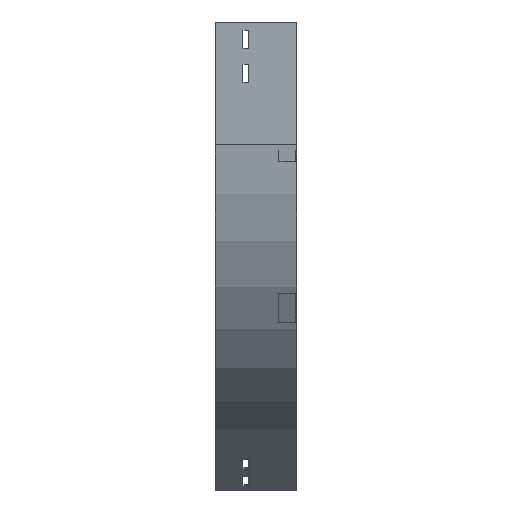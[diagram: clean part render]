
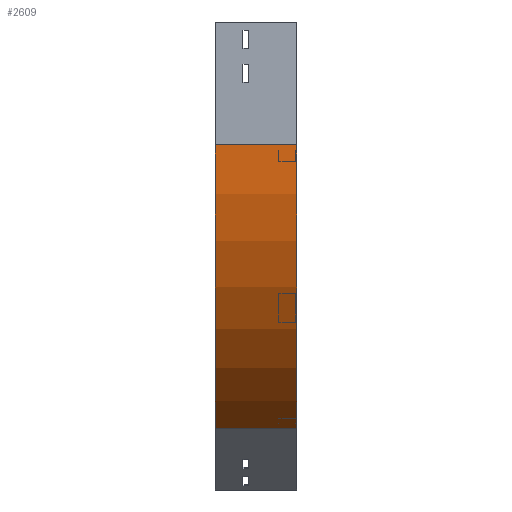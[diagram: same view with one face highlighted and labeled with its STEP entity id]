
A CAD part, left-side view. The second image highlights one B-rep face of the part: STEP entity #2609.
In plain terms, the highlighted cylindrical face has radius 400 mm (diameter 800 mm), a partial arc.
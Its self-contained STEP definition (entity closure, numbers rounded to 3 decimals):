
#87 = EDGE_CURVE ( 'NONE', #2298, #3467, #184, .T. ) ;
#97 = VERTEX_POINT ( 'NONE', #1626 ) ;
#184 = CIRCLE ( 'NONE', #548, 400. ) ;
#305 = EDGE_LOOP ( 'NONE', ( #346, #3632, #2076, #1182 ) ) ;
#346 = ORIENTED_EDGE ( 'NONE', *, *, #1127, .F. ) ;
#410 = DIRECTION ( 'NONE',  ( 0., 0., -1. ) ) ;
#436 = CARTESIAN_POINT ( 'NONE',  ( 0., 100., -150. ) ) ;
#537 = DIRECTION ( 'NONE',  ( -1., 0., 0. ) ) ;
#548 = AXIS2_PLACEMENT_3D ( 'NONE', #3191, #2845, #1320 ) ;
#649 = EDGE_CURVE ( 'NONE', #2298, #2891, #1984, .T. ) ;
#934 = AXIS2_PLACEMENT_3D ( 'NONE', #1633, #1649, #410 ) ;
#950 = DIRECTION ( 'NONE',  ( 0., -1., 0. ) ) ;
#1127 = EDGE_CURVE ( 'NONE', #2891, #97, #2228, .T. ) ;
#1163 = CARTESIAN_POINT ( 'NONE',  ( 200., 100., -496.41 ) ) ;
#1182 = ORIENTED_EDGE ( 'NONE', *, *, #2929, .T. ) ;
#1320 = DIRECTION ( 'NONE',  ( -1., 0., 0. ) ) ;
#1455 = CARTESIAN_POINT ( 'NONE',  ( 200., 0., -496.41 ) ) ;
#1529 = LINE ( 'NONE', #1455, #1550 ) ;
#1550 = VECTOR ( 'NONE', #950, 1000. ) ;
#1626 = CARTESIAN_POINT ( 'NONE',  ( 200., 0., -496.41 ) ) ;
#1633 = CARTESIAN_POINT ( 'NONE',  ( 400., 0., -150. ) ) ;
#1649 = DIRECTION ( 'NONE',  ( 0., -1., 0. ) ) ;
#1919 = AXIS2_PLACEMENT_3D ( 'NONE', #3571, #3801, #537 ) ;
#1984 = LINE ( 'NONE', #2622, #3549 ) ;
#2076 = ORIENTED_EDGE ( 'NONE', *, *, #87, .T. ) ;
#2228 = CIRCLE ( 'NONE', #1919, 400. ) ;
#2298 = VERTEX_POINT ( 'NONE', #436 ) ;
#2302 = DIRECTION ( 'NONE',  ( 0., -1., 0. ) ) ;
#2609 = ADVANCED_FACE ( 'NONE', ( #3358 ), #2794, .T. ) ;
#2622 = CARTESIAN_POINT ( 'NONE',  ( 0., 0., -150. ) ) ;
#2794 = CYLINDRICAL_SURFACE ( 'NONE', #934, 400. ) ;
#2845 = DIRECTION ( 'NONE',  ( 0., -1., 0. ) ) ;
#2891 = VERTEX_POINT ( 'NONE', #3616 ) ;
#2929 = EDGE_CURVE ( 'NONE', #3467, #97, #1529, .T. ) ;
#3191 = CARTESIAN_POINT ( 'NONE',  ( 400., 100., -150. ) ) ;
#3358 = FACE_OUTER_BOUND ( 'NONE', #305, .T. ) ;
#3467 = VERTEX_POINT ( 'NONE', #1163 ) ;
#3549 = VECTOR ( 'NONE', #2302, 1000. ) ;
#3571 = CARTESIAN_POINT ( 'NONE',  ( 400., 0., -150. ) ) ;
#3616 = CARTESIAN_POINT ( 'NONE',  ( 0., 0., -150. ) ) ;
#3632 = ORIENTED_EDGE ( 'NONE', *, *, #649, .F. ) ;
#3801 = DIRECTION ( 'NONE',  ( 0., -1., 0. ) ) ;
